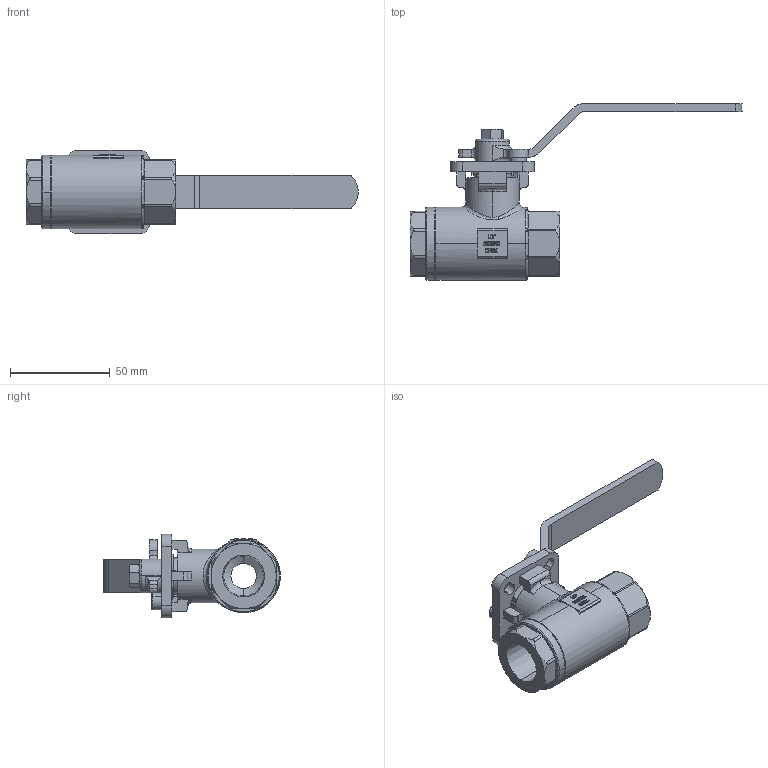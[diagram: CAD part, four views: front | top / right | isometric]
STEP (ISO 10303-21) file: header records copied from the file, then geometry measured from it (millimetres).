
FILE_DESCRIPTION (( 'STEP AP203' ), '1' );
FILE_NAME ('21C組合圖.STEP', '2019-05-21T08:47:56', ( 'bx' ), ( '' ), 'SwSTEP 2.0', 'SolidWorks 2014', '' );
FILE_SCHEMA (( 'CONFIG_CONTROL_DESIGN' ));
Length unit declared in the file: millimetre
Products named in the file (1): 21C組合圖
Bounding box: 166.25 x 88.43 x 42 mm (x, y, z)
Volume: 86376.4 mm3; surface area: 46827.3 mm2
Topology: 19 solids, 19 shells, 908 faces, 2365 edges, 1518 vertices
Faces by surface type: bspline 307, plane 297, cylinder 186, cone 74, torus 39, sphere 5
Entity records: 37798 total; most frequent: CARTESIAN_POINT 17345, ORIENTED_EDGE 4696, DIRECTION 3457, EDGE_CURVE 2348, VERTEX_POINT 1512, AXIS2_PLACEMENT_3D 1204, VECTOR 1049, LINE 1049
